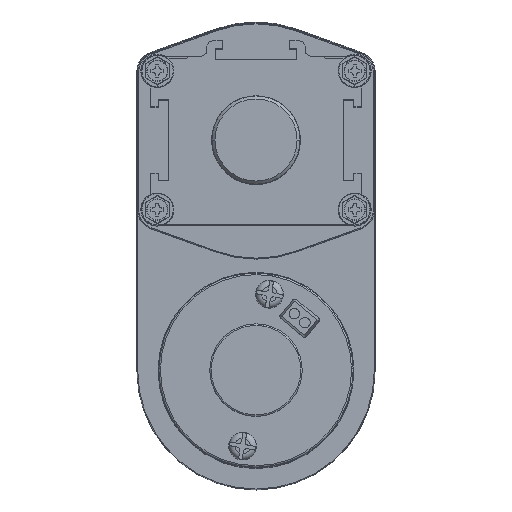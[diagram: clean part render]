
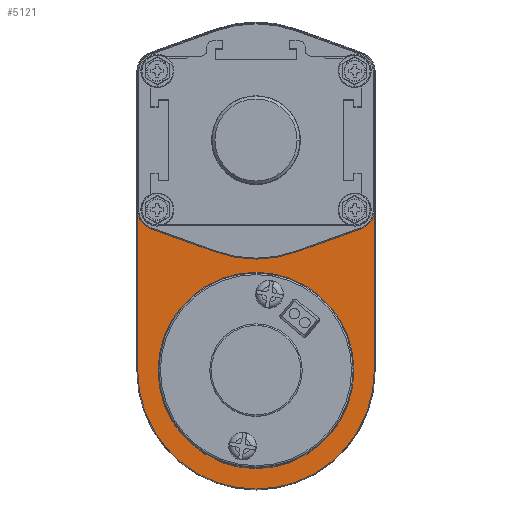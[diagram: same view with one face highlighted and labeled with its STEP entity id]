
A CAD part, top view. The second image highlights one B-rep face of the part: STEP entity #5121.
In plain terms, the highlighted planar face has unit normal (0, 0, 1).
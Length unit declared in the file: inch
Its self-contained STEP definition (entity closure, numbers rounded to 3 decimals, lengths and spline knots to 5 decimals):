
#5121=ADVANCED_FACE('NONE',(#10541,#10542,#10543),#10544,.T.);
#10541=FACE_OUTER_BOUND('',#19824,.T.);
#10542=FACE_BOUND('',#19825,.T.);
#10543=FACE_BOUND('',#19826,.T.);
#10544=PLANE('',#19827);
#19824=EDGE_LOOP('',(#35135,#35136,#35137,#35138,#35139,#35140,#35141,#35142));
#19825=EDGE_LOOP('',(#35143,#35144,#35145,#35146,#35147,#35148,#35149,#35150,#35151,#35152,#35153,#35154,#35155));
#19826=EDGE_LOOP('',(#35156,#35157));
#19827=AXIS2_PLACEMENT_3D('',#35158,#35159,#35160);
#35135=ORIENTED_EDGE('',*,*,#41131,.T.);
#35136=ORIENTED_EDGE('',*,*,#38814,.T.);
#35137=ORIENTED_EDGE('',*,*,#41102,.T.);
#35138=ORIENTED_EDGE('',*,*,#40802,.T.);
#35139=ORIENTED_EDGE('',*,*,#43166,.T.);
#35140=ORIENTED_EDGE('',*,*,#43167,.T.);
#35141=ORIENTED_EDGE('',*,*,#42428,.T.);
#35142=ORIENTED_EDGE('',*,*,#40663,.T.);
#35143=ORIENTED_EDGE('',*,*,#43168,.F.);
#35144=ORIENTED_EDGE('',*,*,#42136,.F.);
#35145=ORIENTED_EDGE('',*,*,#37419,.T.);
#35146=ORIENTED_EDGE('',*,*,#38760,.T.);
#35147=ORIENTED_EDGE('',*,*,#37767,.T.);
#35148=ORIENTED_EDGE('',*,*,#37635,.T.);
#35149=ORIENTED_EDGE('',*,*,#37276,.T.);
#35150=ORIENTED_EDGE('',*,*,#39315,.T.);
#35151=ORIENTED_EDGE('',*,*,#42178,.T.);
#35152=ORIENTED_EDGE('',*,*,#38274,.T.);
#35153=ORIENTED_EDGE('',*,*,#41206,.F.);
#35154=ORIENTED_EDGE('',*,*,#42234,.F.);
#35155=ORIENTED_EDGE('',*,*,#41354,.F.);
#35156=ORIENTED_EDGE('',*,*,#40612,.F.);
#35157=ORIENTED_EDGE('',*,*,#41535,.F.);
#35158=CARTESIAN_POINT('',(-1.82668,0.80289,14.84573));
#35159=DIRECTION('',(0.0,0.0,1.0));
#35160=DIRECTION('',(1.0,0.0,0.0));
#37276=EDGE_CURVE('NONE',#43733,#43734,#43735,.T.);
#37419=EDGE_CURVE('NONE',#43992,#43993,#43994,.T.);
#37635=EDGE_CURVE('NONE',#44374,#43733,#44375,.T.);
#37767=EDGE_CURVE('NONE',#44613,#44374,#44614,.T.);
#38274=EDGE_CURVE('NONE',#45489,#45490,#45491,.T.);
#38760=EDGE_CURVE('NONE',#43993,#44613,#46299,.T.);
#38814=EDGE_CURVE('NONE',#46384,#46382,#46385,.T.);
#39315=EDGE_CURVE('NONE',#43734,#47184,#47185,.T.);
#40612=EDGE_CURVE('NONE',#49112,#49113,#49114,.T.);
#40663=EDGE_CURVE('NONE',#49179,#49183,#49185,.T.);
#40802=EDGE_CURVE('NONE',#49376,#49374,#49377,.T.);
#41102=EDGE_CURVE('NONE',#46382,#49376,#49783,.T.);
#41131=EDGE_CURVE('NONE',#49183,#46384,#49822,.T.);
#41206=EDGE_CURVE('NONE',#49925,#45490,#49926,.T.);
#41354=EDGE_CURVE('NONE',#50113,#50109,#50115,.T.);
#41535=EDGE_CURVE('NONE',#49113,#49112,#50344,.T.);
#42136=EDGE_CURVE('NONE',#43992,#51100,#51101,.T.);
#42178=EDGE_CURVE('NONE',#47184,#45489,#51149,.T.);
#42234=EDGE_CURVE('NONE',#50109,#49925,#51219,.T.);
#42428=EDGE_CURVE('NONE',#51450,#49179,#51452,.T.);
#43166=EDGE_CURVE('NONE',#49374,#52285,#52286,.T.);
#43167=EDGE_CURVE('NONE',#52285,#51450,#52287,.T.);
#43168=EDGE_CURVE('NONE',#51100,#50113,#52288,.T.);
#43733=VERTEX_POINT('NONE',#53220);
#43734=VERTEX_POINT('NONE',#53221);
#43735=CIRCLE('',#53222,1.50769);
#43992=VERTEX_POINT('NONE',#53731);
#43993=VERTEX_POINT('NONE',#53732);
#43994=LINE('',#53733,#53734);
#44374=VERTEX_POINT('NONE',#54539);
#44375=CIRCLE('',#54540,1.50769);
#44613=VERTEX_POINT('NONE',#55034);
#44614=LINE('',#55035,#55036);
#45489=VERTEX_POINT('NONE',#56779);
#45490=VERTEX_POINT('NONE',#56780);
#45491=LINE('',#56781,#56782);
#46299=CIRCLE('',#58603,0.24785);
#46382=VERTEX_POINT('NONE',#58814);
#46384=VERTEX_POINT('NONE',#58817);
#46385=LINE('',#58818,#58819);
#47184=VERTEX_POINT('NONE',#60655);
#47185=LINE('',#60656,#60657);
#49112=VERTEX_POINT('NONE',#65064);
#49113=VERTEX_POINT('NONE',#65065);
#49114=CIRCLE('',#65066,1.25);
#49179=VERTEX_POINT('NONE',#65198);
#49183=VERTEX_POINT('NONE',#65204);
#49185=LINE('',#65207,#65208);
#49374=VERTEX_POINT('NONE',#65569);
#49376=VERTEX_POINT('NONE',#65572);
#49377=LINE('',#65573,#65574);
#49783=CIRCLE('',#66410,1.51086);
#49822=CIRCLE('',#66473,0.25102);
#49925=VERTEX_POINT('NONE',#66699);
#49926=CIRCLE('',#66700,0.24785);
#50109=VERTEX_POINT('NONE',#67091);
#50113=VERTEX_POINT('NONE',#67096);
#50115=CIRCLE('',#67099,1.50769);
#50344=CIRCLE('',#67658,1.25);
#51100=VERTEX_POINT('NONE',#69501);
#51101=CIRCLE('',#69502,0.24785);
#51149=CIRCLE('',#69585,0.24785);
#51219=LINE('',#69714,#69715);
#51450=VERTEX_POINT('NONE',#70227);
#51452=CIRCLE('',#70230,1.51086);
#52285=VERTEX_POINT('NONE',#72312);
#52286=CIRCLE('',#72313,0.25102);
#52287=LINE('',#72314,#72315);
#52288=LINE('',#72316,#72317);
#53220=CARTESIAN_POINT('',(-2.10201,3.77712,14.84573));
#53221=CARTESIAN_POINT('',(-1.59189,3.6882,14.84573));
#53222=AXIS2_PLACEMENT_3D('',#72907,#72908,#72909);
#53731=CARTESIAN_POINT('',(-3.6097,1.3836,14.84573));
#53732=CARTESIAN_POINT('',(-3.6097,3.15525,14.84573));
#53733=CARTESIAN_POINT('',(-3.6097,1.3836,14.84573));
#53734=VECTOR('',#73075,39.37008);
#54539=CARTESIAN_POINT('',(-2.61213,3.6882,14.84573));
#54540=AXIS2_PLACEMENT_3D('',#73319,#73320,#73321);
#55034=CARTESIAN_POINT('',(-3.44571,3.38848,14.84573));
#55035=CARTESIAN_POINT('',(-3.44571,3.38848,14.84573));
#55036=VECTOR('',#73509,39.37008);
#56779=CARTESIAN_POINT('',(-0.59432,3.15525,14.84573));
#56780=CARTESIAN_POINT('',(-0.59432,1.3836,14.84573));
#56781=CARTESIAN_POINT('',(-0.59432,3.15525,14.84573));
#56782=VECTOR('',#74118,39.37008);
#58603=AXIS2_PLACEMENT_3D('',#74635,#74636,#74637);
#58814=CARTESIAN_POINT('',(-1.59082,3.69118,14.84573));
#58817=CARTESIAN_POINT('',(-0.75724,3.39147,14.84573));
#58818=CARTESIAN_POINT('',(-1.59082,3.69118,14.84573));
#58819=VECTOR('',#74694,39.37008);
#60655=CARTESIAN_POINT('',(-0.75831,3.38848,14.84573));
#60656=CARTESIAN_POINT('',(-1.59189,3.6882,14.84573));
#60657=VECTOR('',#75228,39.37008);
#65064=CARTESIAN_POINT('',(-2.31907,-1.89465,14.84573));
#65065=CARTESIAN_POINT('',(-1.88495,0.56737,14.84573));
#65066=AXIS2_PLACEMENT_3D('',#76723,#76724,#76725);
#65198=CARTESIAN_POINT('',(-0.59115,-0.66364,14.84573));
#65204=CARTESIAN_POINT('',(-0.59115,3.15525,14.84573));
#65207=CARTESIAN_POINT('',(-0.59115,3.15525,14.84573));
#65208=VECTOR('',#76799,39.37008);
#65569=CARTESIAN_POINT('',(-3.44678,3.39147,14.84573));
#65572=CARTESIAN_POINT('',(-2.6132,3.69118,14.84573));
#65573=CARTESIAN_POINT('',(-3.44678,3.39147,14.84573));
#65574=VECTOR('',#76943,39.37008);
#66410=AXIS2_PLACEMENT_3D('',#77313,#77314,#77315);
#66473=AXIS2_PLACEMENT_3D('',#77348,#77349,#77350);
#66699=CARTESIAN_POINT('',(-0.75831,1.15037,14.84573));
#66700=AXIS2_PLACEMENT_3D('',#77426,#77427,#77428);
#67091=CARTESIAN_POINT('',(-1.59189,0.85066,14.84573));
#67096=CARTESIAN_POINT('',(-2.61213,0.85066,14.84573));
#67099=AXIS2_PLACEMENT_3D('',#77577,#77578,#77579);
#67658=AXIS2_PLACEMENT_3D('',#77758,#77759,#77760);
#69501=CARTESIAN_POINT('',(-3.44571,1.15037,14.84573));
#69502=AXIS2_PLACEMENT_3D('',#78352,#78353,#78354);
#69585=AXIS2_PLACEMENT_3D('',#78394,#78395,#78396);
#69714=CARTESIAN_POINT('',(-1.81501,0.77044,14.84573));
#69715=VECTOR('',#78456,39.37008);
#70227=CARTESIAN_POINT('',(-3.61287,-0.66364,14.84573));
#70230=AXIS2_PLACEMENT_3D('',#78631,#78632,#78633);
#72312=CARTESIAN_POINT('',(-3.61287,3.15525,14.84573));
#72313=AXIS2_PLACEMENT_3D('',#79227,#79228,#79229);
#72314=CARTESIAN_POINT('',(-3.61287,-0.66364,14.84573));
#72315=VECTOR('',#79230,39.37008);
#72316=CARTESIAN_POINT('',(-1.90139,0.59511,14.84573));
#72317=VECTOR('',#79231,39.37008);
#72907=CARTESIAN_POINT('',(-2.10201,2.26943,14.84573));
#72908=DIRECTION('',(0.0,0.0,-1.0));
#72909=DIRECTION('',(1.0,0.,0.0));
#73075=DIRECTION('',(0.,1.0,0.0));
#73319=CARTESIAN_POINT('',(-2.10201,2.26943,14.84573));
#73320=DIRECTION('',(0.0,0.0,-1.0));
#73321=DIRECTION('',(1.0,0.,0.0));
#73509=DIRECTION('',(0.941,0.338,0.0));
#74118=DIRECTION('',(0.,-1.0,0.0));
#74635=CARTESIAN_POINT('',(-3.36185,3.15525,14.84573));
#74636=DIRECTION('',(0.0,0.0,-1.0));
#74637=DIRECTION('',(1.0,0.,0.0));
#74694=DIRECTION('',(-0.941,0.338,0.0));
#75228=DIRECTION('',(0.941,-0.338,0.0));
#76723=CARTESIAN_POINT('',(-2.10201,-0.66364,14.84573));
#76724=DIRECTION('',(0.0,0.0,1.0));
#76725=DIRECTION('',(1.0,0.0,0.0));
#76799=DIRECTION('',(0.0,1.0,0.0));
#76943=DIRECTION('',(-0.941,-0.338,0.0));
#77313=CARTESIAN_POINT('',(-2.10201,2.26943,14.84573));
#77314=DIRECTION('',(0.0,0.0,1.0));
#77315=DIRECTION('',(1.0,0.0,0.0));
#77348=CARTESIAN_POINT('',(-0.84217,3.15525,14.84573));
#77349=DIRECTION('',(0.0,0.0,1.0));
#77350=DIRECTION('',(1.0,0.0,0.0));
#77426=CARTESIAN_POINT('',(-0.84217,1.3836,14.84573));
#77427=DIRECTION('',(0.0,0.0,1.0));
#77428=DIRECTION('',(1.0,0.0,0.0));
#77577=CARTESIAN_POINT('',(-2.10201,2.26943,14.84573));
#77578=DIRECTION('',(0.0,0.0,1.0));
#77579=DIRECTION('',(1.0,0.0,0.0));
#77758=CARTESIAN_POINT('',(-2.10201,-0.66364,14.84573));
#77759=DIRECTION('',(0.0,0.0,1.0));
#77760=DIRECTION('',(1.0,0.0,0.0));
#78352=CARTESIAN_POINT('',(-3.36185,1.3836,14.84573));
#78353=DIRECTION('',(0.0,0.0,1.0));
#78354=DIRECTION('',(1.0,0.0,0.0));
#78394=CARTESIAN_POINT('',(-0.84217,3.15525,14.84573));
#78395=DIRECTION('',(0.0,0.0,-1.0));
#78396=DIRECTION('',(1.0,0.,0.0));
#78456=DIRECTION('',(0.941,0.338,0.0));
#78631=CARTESIAN_POINT('',(-2.10201,-0.66364,14.84573));
#78632=DIRECTION('',(0.0,0.0,1.0));
#78633=DIRECTION('',(1.0,0.0,0.0));
#79227=CARTESIAN_POINT('',(-3.36185,3.15525,14.84573));
#79228=DIRECTION('',(0.0,0.0,1.0));
#79229=DIRECTION('',(1.0,0.0,0.0));
#79230=DIRECTION('',(0.0,-1.0,0.0));
#79231=DIRECTION('',(0.941,-0.338,0.0));
